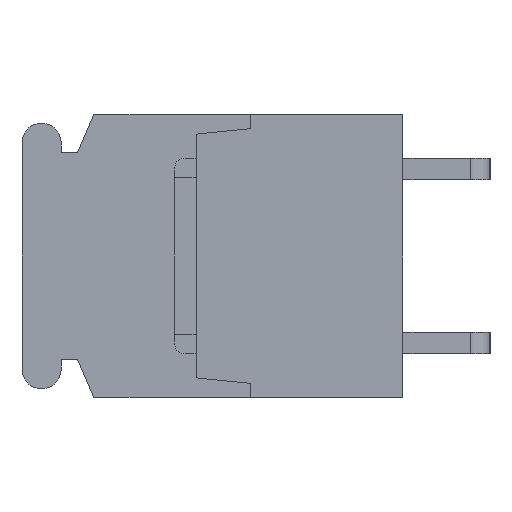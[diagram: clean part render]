
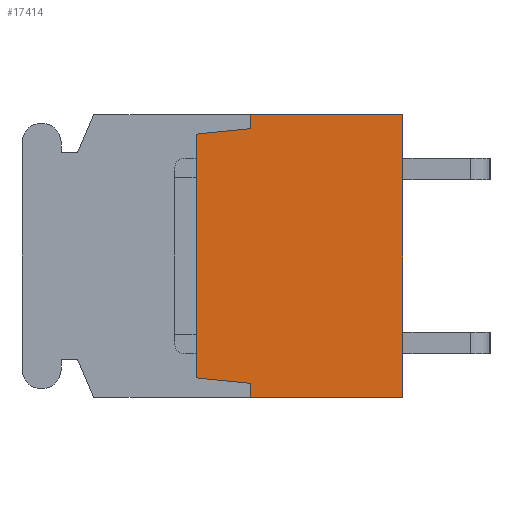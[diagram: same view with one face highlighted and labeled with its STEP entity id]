
A CAD part, left-side view. The second image highlights one B-rep face of the part: STEP entity #17414.
In plain terms, the highlighted planar face has unit normal (-1, 0, 0).
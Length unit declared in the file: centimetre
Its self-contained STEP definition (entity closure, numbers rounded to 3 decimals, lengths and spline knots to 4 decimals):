
#1223=VECTOR('',#19312,1.);
#1282=VECTOR('',#19387,1.);
#2011=VECTOR('',#21191,1.);
#2160=VECTOR('',#21542,1.);
#2161=VECTOR('',#21543,1.);
#2162=VECTOR('',#21544,1.);
#2163=VECTOR('',#21545,1.);
#2164=VECTOR('',#21546,1.);
#3161=LINE('',#24161,#1223);
#3220=LINE('',#24282,#1282);
#3949=LINE('',#26636,#2011);
#4098=LINE('',#27092,#2160);
#4099=LINE('',#27094,#2161);
#4100=LINE('',#27096,#2162);
#4101=LINE('',#27098,#2163);
#4102=LINE('',#27100,#2164);
#5110=VERTEX_POINT('',#24160);
#5111=VERTEX_POINT('',#24162);
#5127=VERTEX_POINT('',#24214);
#5160=VERTEX_POINT('',#24281);
#5984=VERTEX_POINT('',#27093);
#5985=VERTEX_POINT('',#27095);
#5986=VERTEX_POINT('',#27097);
#5987=VERTEX_POINT('',#27099);
#7408=EDGE_CURVE('',#5110,#5111,#3161,.T.);
#7469=EDGE_CURVE('',#5160,#5127,#3220,.T.);
#8523=EDGE_CURVE('',#5127,#5110,#3949,.T.);
#8730=EDGE_CURVE('',#5984,#5160,#4098,.T.);
#8731=EDGE_CURVE('',#5985,#5984,#4099,.T.);
#8732=EDGE_CURVE('',#5986,#5985,#4100,.T.);
#8733=EDGE_CURVE('',#5987,#5986,#4101,.T.);
#8734=EDGE_CURVE('',#5111,#5987,#4102,.T.);
#13404=ORIENTED_EDGE('',*,*,#8523,.F.);
#13405=ORIENTED_EDGE('',*,*,#7469,.F.);
#13406=ORIENTED_EDGE('',*,*,#8730,.F.);
#13407=ORIENTED_EDGE('',*,*,#8731,.F.);
#13408=ORIENTED_EDGE('',*,*,#8732,.F.);
#13409=ORIENTED_EDGE('',*,*,#8733,.F.);
#13410=ORIENTED_EDGE('',*,*,#8734,.F.);
#13411=ORIENTED_EDGE('',*,*,#7408,.F.);
#15316=EDGE_LOOP('',(#13404,#13405,#13406,#13407,#13408,#13409,#13410,#13411));
#16420=FACE_BOUND('',#15316,.T.);
#17414=ADVANCED_FACE('',(#16420),#18189,.F.);
#18189=PLANE('',#29696);
#19312=DIRECTION('',(0.,1.,0.));
#19387=DIRECTION('',(0.,-1.,0.));
#21191=DIRECTION('',(0.,0.,-1.));
#21541=DIRECTION('',(1.,0.,0.));
#21542=DIRECTION('',(0.,0.,1.));
#21543=DIRECTION('',(0.,-0.995,0.1));
#21544=DIRECTION('',(0.,0.,1.));
#21545=DIRECTION('',(0.,0.995,0.1));
#21546=DIRECTION('',(0.,0.,1.));
#24160=CARTESIAN_POINT('',(-1.84,0.,-0.65));
#24161=CARTESIAN_POINT('',(-1.84,0.,-0.65));
#24162=CARTESIAN_POINT('',(-1.84,0.7,-0.65));
#24214=CARTESIAN_POINT('',(-1.84,0.,0.65));
#24281=CARTESIAN_POINT('',(-1.84,0.7,0.65));
#24282=CARTESIAN_POINT('',(-1.84,0.7,0.65));
#26636=CARTESIAN_POINT('',(-1.84,0.,0.65));
#27091=CARTESIAN_POINT('',(-1.84,0.4626,0.));
#27092=CARTESIAN_POINT('',(-1.84,0.7,0.585));
#27093=CARTESIAN_POINT('',(-1.84,0.7,0.585));
#27094=CARTESIAN_POINT('',(-1.84,0.95,0.56));
#27095=CARTESIAN_POINT('',(-1.84,0.95,0.56));
#27096=CARTESIAN_POINT('',(-1.84,0.95,-0.56));
#27097=CARTESIAN_POINT('',(-1.84,0.95,-0.56));
#27098=CARTESIAN_POINT('',(-1.84,0.7,-0.585));
#27099=CARTESIAN_POINT('',(-1.84,0.7,-0.585));
#27100=CARTESIAN_POINT('',(-1.84,0.7,-0.65));
#29696=AXIS2_PLACEMENT_3D('',#27091,#21541,$);
